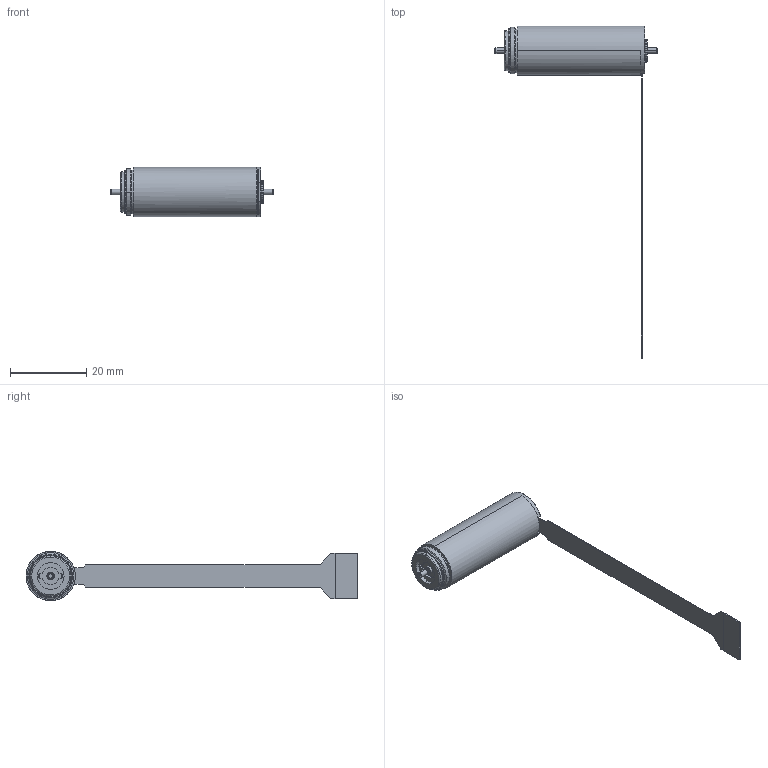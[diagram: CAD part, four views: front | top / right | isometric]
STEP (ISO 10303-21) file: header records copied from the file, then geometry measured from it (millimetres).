
FILE_DESCRIPTION((''),'2;1');
FILE_NAME('426397_EC13_12W_A','2016-10-17T',('mmagpetk'),(''),'CREO PARAMETRIC BY PTC INC, 2016050','CREO PARAMETRIC BY PTC INC, 2016050','');
FILE_SCHEMA(('CONFIG_CONTROL_DESIGN'));
Length unit declared in the file: millimetre
Products named in the file (1): 426397_EC13_12W_A
Bounding box: 42.7 x 86.87 x 12.9 mm (x, y, z)
Volume: 4769.3 mm3; surface area: 3065.9 mm2
Topology: 1 solids, 2 shells, 206 faces, 491 edges, 298 vertices
Faces by surface type: plane 81, cylinder 72, cone 27, torus 26
Entity records: 7770 total; most frequent: CARTESIAN_POINT 1419, DIRECTION 1026, ORIENTED_EDGE 982, PRESENTATION_STYLE_ASSIGNMENT 492, STYLED_ITEM 492, CURVE_STYLE 491, EDGE_CURVE 491, AXIS2_PLACEMENT_3D 415
